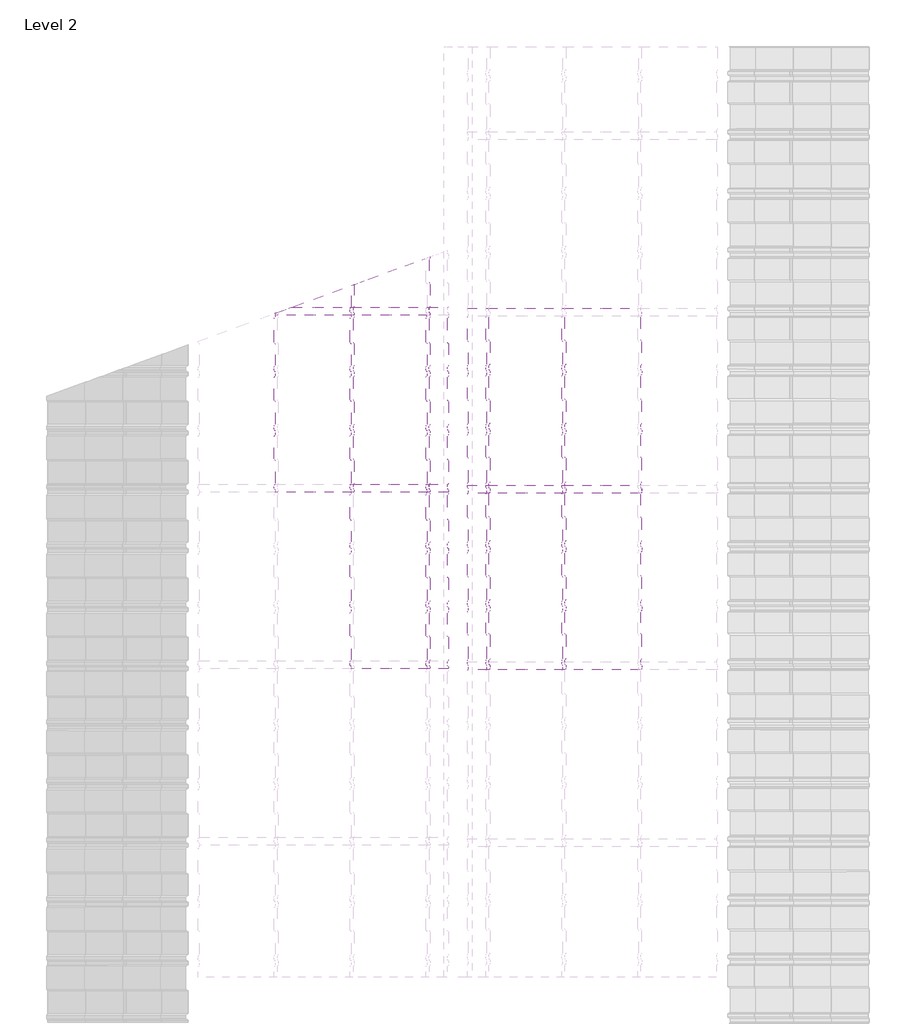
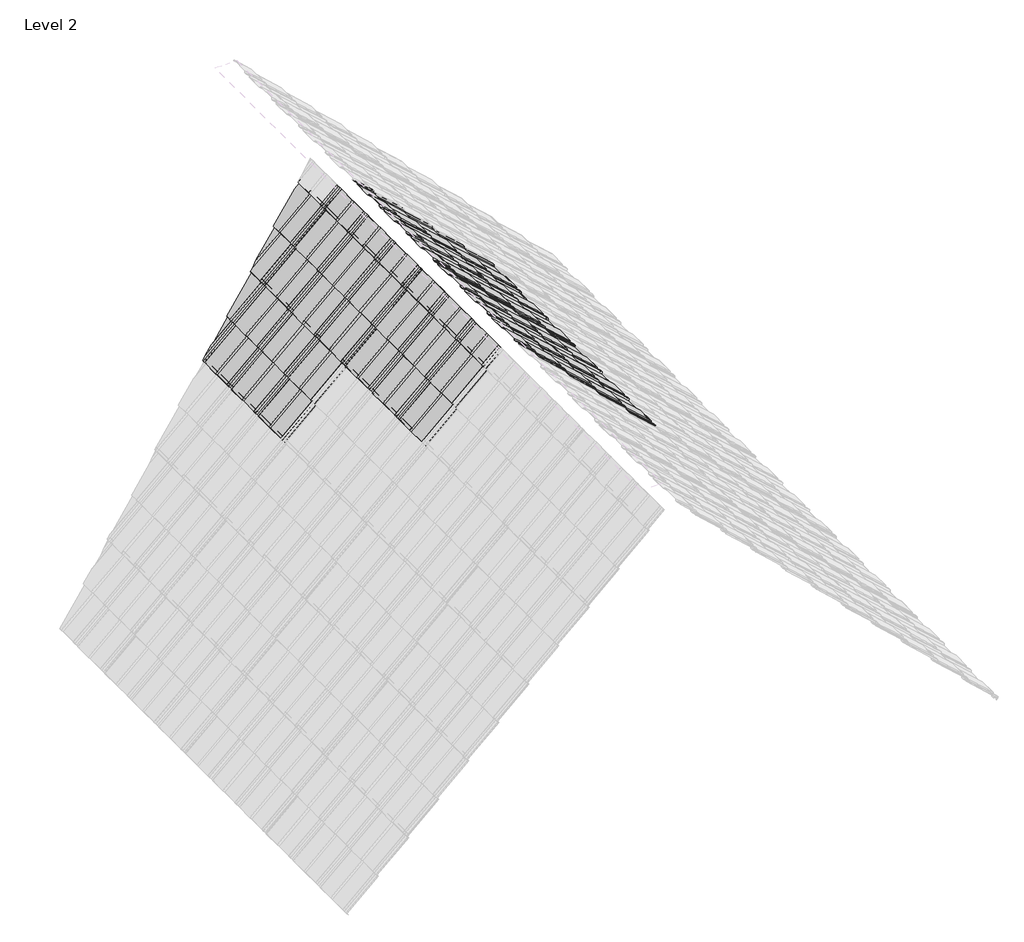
# One storey, part 3 of 4: 13 proxies.
"""IFC4 building model written with IfcOpenShell, lengths in millimetres."""

from ifc_helpers import new_model, si_unit, origin, place, context, project, spatial, faceted_brep, transform, mapped, element, save
from components import specialty_equipment_83d03673, specialty_equipment_ec8eb796

model = new_model("IFC4")

# Units and contexts
model_context = context("Model", 3, world=origin())
ifc_project = project(units=[si_unit("LENGTHUNIT", "METRE", prefix="MILLI")], contexts=[model_context])

# Site, building, storey
site = spatial("IfcSite", under=ifc_project)
building = spatial("IfcBuilding", under=site)
storey = spatial("IfcBuildingStorey", under=building, Name="Level 2", Elevation=4000.0)

# Proxies
placement = place(None, origin())
element("IfcBuildingElementProxy", 1, Name="AQUAPLAST - Blachodachówka Alice : Blachodachówka Alice", ObjectType="AQUAPLAST - Blachodachówka Alice : Blachodachówka Alice", at=placement, inside=storey, context=model_context, shape_type="Brep", body=[
    faceted_brep([(-6474.1422197, 14429.1793097, 5784.3706175), (-6474.1422197, 14407.3864165, 5784.3706175), (-6481.5240321, 14396.3864165, 5792.525913), (-6481.5240321, 14242.2831021, 5792.525913), (-6473.8066828, 14230.7831021, 5783.9999223), (-6473.8066828, 14092.6987959, 5783.9999223), (-6481.8595691, 14080.6987959, 5792.8966083), (-6481.8595691, 14058.8864165, 5792.8966083), (-6473.8066828, 14046.8864165, 5783.9999223), (-6473.8066828, 14024.8864165, 5783.9999223), (-6481.5240321, 14013.3864165, 5792.525913), (-6481.5240321, 13866.6688392, 5792.525913), (-6473.8066828, 13855.1688392, 5783.9999223), (-6473.8066828, 13709.2531454, 5783.9999223), (-6481.8595691, 13697.2531454, 5792.8966083), (-6481.8595691, 13675.440766, 5792.8966083), (-6473.8066828, 13663.440766, 5783.9999223), (-6473.8066828, 13641.440766, 5783.9999223), (-6481.5240321, 13629.940766, 5792.525913), (-6481.5240321, 13483.2231888, 5792.525913), (-6473.8066828, 13471.7231888, 5783.9999223), (-6473.8066828, 13325.1039938, 5783.9999223), (-6481.5240321, 13313.6039938, 5792.525913), (-6481.5240321, 13291.8864165, 5792.525913), (-6473.8066828, 13280.3864165, 5783.9999223), (-6473.8066828, 13267.7302878, 5783.9999223), (-6462.5997493, 13267.7302878, 5771.6187009), (-6462.5997493, 13280.3864165, 5771.6187009), (-6470.3170987, 13291.8864165, 5780.1446916), (-6470.3170987, 13313.6039938, 5780.1446916), (-6462.5997493, 13325.1039938, 5771.6187009), (-6462.5997493, 13471.7231888, 5771.6187009), (-6470.3170987, 13483.2231888, 5780.1446916), (-6470.3170987, 13629.940766, 5780.1446916), (-6462.5997493, 13641.440766, 5771.6187009), (-6462.5997493, 13663.440766, 5771.6187009), (-6470.6526356, 13675.440766, 5780.5153869), (-6470.6526356, 13697.2531454, 5780.5153869), (-6462.5997493, 13709.2531454, 5771.6187009), (-6462.5997493, 13855.1688392, 5771.6187009), (-6470.3170987, 13866.6688392, 5780.1446916), (-6470.3170987, 14013.3864165, 5780.1446916), (-6462.5997493, 14024.8864165, 5771.6187009), (-6462.5997493, 14046.8864165, 5771.6187009), (-6470.6526356, 14058.8864165, 5780.5153869), (-6470.6526356, 14080.6987959, 5780.5153869), (-6462.5997493, 14092.6987959, 5771.6187009), (-6462.5997493, 14230.7831021, 5771.6187009), (-6470.3170987, 14242.2831021, 5780.1446916), (-6470.3170987, 14396.3864165, 5780.1446916), (-6462.9352862, 14407.3864165, 5771.9893961), (-6462.9352862, 14429.1793097, 5771.9893961), (-6466.8399866, 14434.9978948, 5776.3032399), (-6475.8469589, 14431.719625, 5786.2539831), (-5987.4371634, 14463.0182073, 6286.7914608), (-5983.6039355, 14468.7302878, 6282.5565786), (-5972.615101, 14468.7302878, 6270.4163092), (-5976.4483289, 14463.0182073, 6274.6511913), (-5976.4483289, 14440.4722029, 6274.6511913), (-5968.7309795, 14428.9722029, 6266.1252006), (-5968.7309795, 14407.5935233, 6266.1252006), (-5976.112792, 14396.5935233, 6274.2804961), (-5976.112792, 14242.0759953, 6274.2804961), (-5968.3954426, 14230.5759953, 6265.7545053), (-5968.3954426, 14092.9059027, 6265.7545053), (-5976.4483289, 14080.9059027, 6274.6511913), (-5976.4483289, 14058.6793097, 6274.6511913), (-5968.3954426, 14046.6793097, 6265.7545053), (-5968.3954426, 14025.0935233, 6265.7545053), (-5976.112792, 14013.5935233, 6274.2804961), (-5976.112792, 13866.4617325, 6274.2804961), (-5968.3954426, 13854.9617325, 6265.7545053), (-5968.3954426, 13709.4602522, 6265.7545053), (-5976.4483289, 13697.4602522, 6274.6511913), (-5976.4483289, 13675.2336592, 6274.6511913), (-5968.3954426, 13663.2336592, 6265.7545053), (-5968.3954426, 13641.6478728, 6265.7545053), (-5976.112792, 13630.1478728, 6274.2804961), (-5976.112792, 13483.016082, 6274.2804961), (-5968.3954426, 13471.516082, 6265.7545053), (-5968.3954426, 13325.3111006, 6265.7545053), (-5976.112792, 13313.8111006, 6274.2804961), (-5976.112792, 13291.6793097, 6274.2804961), (-5968.3954426, 13280.1793097, 6265.7545053), (-5968.3954426, 13267.7302878, 6265.7545053), (-5979.384277, 13267.7302878, 6277.8947748), (-5979.384277, 13280.1793097, 6277.8947748), (-5987.1016264, 13291.6793097, 6286.4207655), (-5987.1016264, 13313.8111006, 6286.4207655), (-5979.384277, 13325.3111006, 6277.8947748), (-5979.384277, 13471.516082, 6277.8947748), (-5987.1016264, 13483.016082, 6286.4207655), (-5987.1016264, 13630.1478728, 6286.4207655), (-5979.384277, 13641.6478728, 6277.8947748), (-5979.384277, 13663.2336592, 6277.8947748), (-5987.4371634, 13675.2336592, 6286.7914608), (-5987.4371634, 13697.4602522, 6286.7914608), (-5979.384277, 13709.4602522, 6277.8947748), (-5979.384277, 13854.9617325, 6277.8947748), (-5987.1016264, 13866.4617325, 6286.4207655), (-5987.1016264, 14013.5935233, 6286.4207655), (-5979.384277, 14025.0935233, 6277.8947748), (-5979.384277, 14046.6793097, 6277.8947748), (-5987.4371634, 14058.6793097, 6286.7914608), (-5987.4371634, 14080.9059027, 6286.7914608), (-5979.384277, 14092.9059027, 6277.8947748), (-5979.384277, 14230.5759953, 6277.8947748), (-5987.1016264, 14242.0759953, 6286.4207655), (-5987.1016264, 14396.5935233, 6286.4207655), (-5979.719814, 14407.5935233, 6278.26547), (-5979.719814, 14428.9722029, 6278.26547), (-5987.4371634, 14440.4722029, 6286.7914608), (-5963.8150765, 14407.3864165, 6291.9873258), (-5963.8150765, 14429.1793097, 6291.9873258), (-5971.5324259, 14440.6793097, 6300.5133166), (-5971.5324259, 14462.8111006, 6300.5133166), (-5967.5602141, 14468.7302878, 6296.1248874), (-5968.034735, 14468.7302878, 6296.6491297), (-5971.8679628, 14463.0182073, 6300.8840118), (-5971.8679628, 14440.4722029, 6300.8840118), (-5964.1506134, 14428.9722029, 6292.3580211), (-5964.1506134, 14407.5935233, 6292.3580211), (-5971.5324259, 14396.5935233, 6300.5133166), (-5971.5324259, 14242.0759953, 6300.5133166), (-5963.8150765, 14230.5759953, 6291.9873258), (-5963.8150765, 14092.9059027, 6291.9873258), (-5971.8679628, 14080.9059027, 6300.8840118), (-5971.8679628, 14058.6793097, 6300.8840118), (-5963.8150765, 14046.6793097, 6291.9873258), (-5963.8150765, 14025.0935233, 6291.9873258), (-5971.5324259, 14013.5935233, 6300.5133166), (-5971.5324259, 13866.4617325, 6300.5133166), (-5963.8150765, 13854.9617325, 6291.9873258), (-5963.8150765, 13709.4602522, 6291.9873258), (-5971.8679628, 13697.4602522, 6300.8840118), (-5971.8679628, 13675.2336592, 6300.8840118), (-5963.8150765, 13663.2336592, 6291.9873258), (-5963.8150765, 13641.6478728, 6291.9873258), (-5971.5324259, 13630.1478728, 6300.5133166), (-5971.5324259, 13483.016082, 6300.5133166), (-5963.8150765, 13471.516082, 6291.9873258), (-5963.8150765, 13325.3111006, 6291.9873258), (-5971.5324259, 13313.8111006, 6300.5133166), (-5971.5324259, 13291.6793097, 6300.5133166), (-5963.8150765, 13280.1793097, 6291.9873258), (-5963.8150765, 13267.7302878, 6291.9873258), (-5963.4795396, 13267.7302878, 6291.6166306), (-5963.4795396, 13280.3864165, 6291.6166306), (-5971.196889, 13291.8864165, 6300.1426213), (-5971.196889, 13313.6039938, 6300.1426213), (-5963.4795396, 13325.1039938, 6291.6166306), (-5963.4795396, 13471.7231888, 6291.6166306), (-5971.196889, 13483.2231888, 6300.1426213), (-5971.196889, 13629.940766, 6300.1426213), (-5963.4795396, 13641.440766, 6291.6166306), (-5963.4795396, 13663.440766, 6291.6166306), (-5971.5324259, 13675.440766, 6300.5133166), (-5971.5324259, 13697.2531454, 6300.5133166), (-5963.4795396, 13709.2531454, 6291.6166306), (-5963.4795396, 13855.1688392, 6291.6166306), (-5971.196889, 13866.6688392, 6300.1426213), (-5971.196889, 14013.3864165, 6300.1426213), (-5963.4795396, 14024.8864165, 6291.6166306), (-5963.4795396, 14046.8864165, 6291.6166306), (-5971.5324259, 14058.8864165, 6300.5133166), (-5971.5324259, 14080.6987959, 6300.5133166), (-5963.4795396, 14092.6987959, 6291.6166306), (-5963.4795396, 14230.7831021, 6291.6166306), (-5971.196889, 14242.2831021, 6300.1426213), (-5971.196889, 14396.3864165, 6300.1426213), (-5971.3991897, 14468.7302878, 6270.5631408), (-5982.3880241, 14468.7302878, 6282.7034102), (-5986.3602359, 14462.8111006, 6287.0918394), (-5986.3602359, 14440.6793097, 6287.0918394), (-5978.6428865, 14429.1793097, 6278.5658486), (-5978.6428865, 14407.3864165, 6278.5658486), (-5986.024699, 14396.3864165, 6286.7211441), (-5986.024699, 14242.2831021, 6286.7211441), (-5978.3073496, 14230.7831021, 6278.1951534), (-5978.3073496, 14092.6987959, 6278.1951534), (-5986.3602359, 14080.6987959, 6287.0918394), (-5986.3602359, 14058.8864165, 6287.0918394), (-5978.3073496, 14046.8864165, 6278.1951534), (-5978.3073496, 14024.8864165, 6278.1951534), (-5986.024699, 14013.3864165, 6286.7211441), (-5986.024699, 13866.6688392, 6286.7211441), (-5978.3073496, 13855.1688392, 6278.1951534), (-5978.3073496, 13709.2531454, 6278.1951534), (-5986.3602359, 13697.2531454, 6287.0918394), (-5986.3602359, 13675.440766, 6287.0918394), (-5978.3073496, 13663.440766, 6278.1951534), (-5978.3073496, 13641.440766, 6278.1951534), (-5986.024699, 13629.940766, 6286.7211441), (-5986.024699, 13483.2231888, 6286.7211441), (-5978.3073496, 13471.7231888, 6278.1951534), (-5978.3073496, 13325.1039938, 6278.1951534), (-5986.024699, 13313.6039938, 6286.7211441), (-5986.024699, 13291.8864165, 6286.7211441), (-5978.3073496, 13280.3864165, 6278.1951534), (-5978.3073496, 13267.7302878, 6278.1951534), (-5967.3185152, 13267.7302878, 6266.0548839), (-5967.3185152, 13280.3864165, 6266.0548839), (-5975.0358645, 13291.8864165, 6274.5808747), (-5975.0358645, 13313.6039938, 6274.5808747), (-5967.3185152, 13325.1039938, 6266.0548839), (-5967.3185152, 13471.7231888, 6266.0548839), (-5975.0358645, 13483.2231888, 6274.5808747), (-5975.0358645, 13629.940766, 6274.5808747), (-5967.3185152, 13641.440766, 6266.0548839), (-5967.3185152, 13663.440766, 6266.0548839), (-5975.3714015, 13675.440766, 6274.9515699), (-5975.3714015, 13697.2531454, 6274.9515699), (-5967.3185152, 13709.2531454, 6266.0548839), (-5967.3185152, 13855.1688392, 6266.0548839), (-5975.0358645, 13866.6688392, 6274.5808747), (-5975.0358645, 14013.3864165, 6274.5808747), (-5967.3185152, 14024.8864165, 6266.0548839), (-5967.3185152, 14046.8864165, 6266.0548839), (-5975.3714015, 14058.8864165, 6274.9515699), (-5975.3714015, 14080.6987959, 6274.9515699), (-5967.3185152, 14092.6987959, 6266.0548839), (-5967.3185152, 14230.7831021, 6266.0548839), (-5975.0358645, 14242.2831021, 6274.5808747), (-5975.0358645, 14396.3864165, 6274.5808747), (-5967.6540521, 14407.3864165, 6266.4255792), (-5967.6540521, 14429.1793097, 6266.4255792), (-5975.3714015, 14440.6793097, 6274.9515699), (-5975.3714015, 14462.8111006, 6274.9515699), (-6235.9350042, 14463.0182073, 6039.7753404), (-6232.1017764, 14468.7302878, 6035.5404583), (-6220.3579838, 14468.7302878, 6022.5661245), (-6224.1912117, 14463.0182073, 6026.8010067), (-6224.1912117, 14440.4722029, 6026.8010067), (-6216.4738623, 14428.9722029, 6018.2750159), (-6216.4738623, 14407.5935233, 6018.2750159), (-6223.8556748, 14396.5935233, 6026.4303114), (-6223.8556748, 14242.0759953, 6026.4303114), (-6216.1383254, 14230.5759953, 6017.9043207), (-6216.1383254, 14092.9059027, 6017.9043207), (-6224.1912117, 14080.9059027, 6026.8010067), (-6224.1912117, 14058.6793097, 6026.8010067), (-6216.1383254, 14046.6793097, 6017.9043207), (-6216.1383254, 14025.0935233, 6017.9043207), (-6223.8556748, 14013.5935233, 6026.4303114), (-6223.8556748, 13866.4617325, 6026.4303114), (-6216.1383254, 13854.9617325, 6017.9043207), (-6216.1383254, 13709.4602522, 6017.9043207), (-6224.1912117, 13697.4602522, 6026.8010067), (-6224.1912117, 13675.2336592, 6026.8010067), (-6216.1383254, 13663.2336592, 6017.9043207), (-6216.1383254, 13641.6478728, 6017.9043207), (-6223.8556748, 13630.1478728, 6026.4303114), (-6223.8556748, 13483.016082, 6026.4303114), (-6216.1383254, 13471.516082, 6017.9043207), (-6216.1383254, 13325.3111006, 6017.9043207), (-6223.8556748, 13313.8111006, 6026.4303114), (-6223.8556748, 13291.6793097, 6026.4303114), (-6216.1383254, 13280.1793097, 6017.9043207), (-6216.1383254, 13267.7302878, 6017.9043207), (-6227.8821179, 13267.7302878, 6030.8786544), (-6227.8821179, 13280.1793097, 6030.8786544), (-6235.5994673, 13291.6793097, 6039.4046452), (-6235.5994673, 13313.8111006, 6039.4046452), (-6227.8821179, 13325.3111006, 6030.8786544), (-6227.8821179, 13471.516082, 6030.8786544), (-6235.5994673, 13483.016082, 6039.4046452), (-6235.5994673, 13630.1478728, 6039.4046452), (-6227.8821179, 13641.6478728, 6030.8786544), (-6227.8821179, 13663.2336592, 6030.8786544), (-6235.9350042, 13675.2336592, 6039.7753404), (-6235.9350042, 13697.4602522, 6039.7753404), (-6227.8821179, 13709.4602522, 6030.8786544), (-6227.8821179, 13854.9617325, 6030.8786544), (-6235.5994673, 13866.4617325, 6039.4046452), (-6235.5994673, 14013.5935233, 6039.4046452), (-6227.8821179, 14025.0935233, 6030.8786544), (-6227.8821179, 14046.6793097, 6030.8786544), (-6235.9350042, 14058.6793097, 6039.7753404), (-6235.9350042, 14080.9059027, 6039.7753404), (-6227.8821179, 14092.9059027, 6030.8786544), (-6227.8821179, 14230.5759953, 6030.8786544), (-6235.5994673, 14242.0759953, 6039.4046452), (-6235.5994673, 14396.5935233, 6039.4046452), (-6228.2176548, 14407.5935233, 6031.2493497), (-6228.2176548, 14428.9722029, 6031.2493497), (-6235.9350042, 14440.4722029, 6039.7753404), (-6226.8051905, 13267.7302878, 6031.179033), (-6226.8051905, 13280.3864165, 6031.179033), (-6234.5225399, 13291.8864165, 6039.7050238), (-6234.5225399, 13313.6039938, 6039.7050238), (-6226.8051905, 13325.1039938, 6031.179033), (-6226.8051905, 13471.7231888, 6031.179033), (-6234.5225399, 13483.2231888, 6039.7050238), (-6234.5225399, 13629.940766, 6039.7050238), (-6226.8051905, 13641.440766, 6031.179033), (-6226.8051905, 13663.440766, 6031.179033), (-6234.8580768, 13675.440766, 6040.0757191), (-6234.8580768, 13697.2531454, 6040.0757191), (-6226.8051905, 13709.2531454, 6031.179033), (-6226.8051905, 13855.1688392, 6031.179033), (-6234.5225399, 13866.6688392, 6039.7050238), (-6234.5225399, 14013.3864165, 6039.7050238), (-6226.8051905, 14024.8864165, 6031.179033), (-6226.8051905, 14046.8864165, 6031.179033), (-6234.8580768, 14058.8864165, 6040.0757191), (-6234.8580768, 14080.6987959, 6040.0757191), (-6226.8051905, 14092.6987959, 6031.179033), (-6226.8051905, 14230.7831021, 6031.179033), (-6234.5225399, 14242.2831021, 6039.7050238), (-6234.5225399, 14396.3864165, 6039.7050238), (-6227.1407274, 14407.3864165, 6031.5497283), (-6227.1407274, 14429.1793097, 6031.5497283), (-6234.8580768, 14440.6793097, 6040.0757191), (-6234.8580768, 14462.8111006, 6040.0757191), (-6230.885865, 14468.7302878, 6035.6872899), (-6463.6766767, 14429.1793097, 5771.3183223), (-6463.6766767, 14407.3864165, 5771.3183223), (-6471.0584892, 14396.3864165, 5779.4736178), (-6471.0584892, 14242.2831021, 5779.4736178), (-6463.3411398, 14230.7831021, 5770.947627), (-6463.3411398, 14092.6987959, 5770.947627), (-6471.3940261, 14080.6987959, 5779.844313), (-6471.3940261, 14058.8864165, 5779.844313), (-6463.3411398, 14046.8864165, 5770.947627), (-6463.3411398, 14024.8864165, 5770.947627), (-6471.0584892, 14013.3864165, 5779.4736178), (-6471.0584892, 13866.6688392, 5779.4736178), (-6463.3411398, 13855.1688392, 5770.947627), (-6463.3411398, 13709.2531454, 5770.947627), (-6471.3940261, 13697.2531454, 5779.844313), (-6471.3940261, 13675.440766, 5779.844313), (-6463.3411398, 13663.440766, 5770.947627), (-6463.3411398, 13641.440766, 5770.947627), (-6471.0584892, 13629.940766, 5779.4736178), (-6471.0584892, 13483.2231888, 5779.4736178), (-6463.3411398, 13471.7231888, 5770.947627), (-6463.3411398, 13325.1039938, 5770.947627), (-6471.0584892, 13313.6039938, 5779.4736178), (-6471.0584892, 13291.8864165, 5779.4736178), (-6463.3411398, 13280.3864165, 5770.947627), (-6463.3411398, 13267.7302878, 5770.947627), (-6474.8836102, 13267.7302878, 5783.6995436), (-6474.8836102, 13280.1793097, 5783.6995436), (-6482.6009596, 13291.6793097, 5792.2255344), (-6482.6009596, 13313.8111006, 5792.2255344), (-6474.8836102, 13325.3111006, 5783.6995436), (-6474.8836102, 13471.516082, 5783.6995436), (-6482.6009596, 13483.016082, 5792.2255344), (-6482.6009596, 13630.1478728, 5792.2255344), (-6474.8836102, 13641.6478728, 5783.6995436), (-6474.8836102, 13663.2336592, 5783.6995436), (-6482.9364965, 13675.2336592, 5792.5962297), (-6482.9364965, 13697.4602522, 5792.5962297), (-6474.8836102, 13709.4602522, 5783.6995436), (-6474.8836102, 13854.9617325, 5783.6995436), (-6482.6009596, 13866.4617325, 5792.2255344), (-6482.6009596, 14013.5935233, 5792.2255344), (-6474.8836102, 14025.0935233, 5783.6995436), (-6474.8836102, 14046.6793097, 5783.6995436), (-6482.9364965, 14058.6793097, 5792.5962297), (-6482.9364965, 14080.9059027, 5792.5962297), (-6474.8836102, 14092.9059027, 5783.6995436), (-6474.8836102, 14230.5759953, 5783.6995436), (-6482.6009596, 14242.0759953, 5792.2255344), (-6482.6009596, 14396.5935233, 5792.2255344), (-6475.2191471, 14407.5935233, 5784.0702389), (-6475.2191471, 14428.9722029, 5784.0702389), (-6476.8241825, 14431.3639447, 5785.8434535), (-6467.4358395, 14434.7810221, 5775.4713786), (-6215.0613979, 13267.7302878, 6018.2046993), (-6215.0613979, 13280.3864165, 6018.2046993), (-6222.7787473, 13291.8864165, 6026.73069), (-6222.7787473, 13313.6039938, 6026.73069), (-6215.0613979, 13325.1039938, 6018.2046993), (-6215.0613979, 13471.7231888, 6018.2046993), (-6222.7787473, 13483.2231888, 6026.73069), (-6222.7787473, 13629.940766, 6026.73069), (-6215.0613979, 13641.440766, 6018.2046993), (-6215.0613979, 13663.440766, 6018.2046993), (-6223.1142843, 13675.440766, 6027.1013853), (-6223.1142843, 13697.2531454, 6027.1013853), (-6215.0613979, 13709.2531454, 6018.2046993), (-6215.0613979, 13855.1688392, 6018.2046993), (-6222.7787473, 13866.6688392, 6026.73069), (-6222.7787473, 14013.3864165, 6026.73069), (-6215.0613979, 14024.8864165, 6018.2046993), (-6215.0613979, 14046.8864165, 6018.2046993), (-6223.1142843, 14058.8864165, 6027.1013853), (-6223.1142843, 14080.6987959, 6027.1013853), (-6215.0613979, 14092.6987959, 6018.2046993), (-6215.0613979, 14230.7831021, 6018.2046993), (-6222.7787473, 14242.2831021, 6026.73069), (-6222.7787473, 14396.3864165, 6026.73069), (-6215.3969349, 14407.3864165, 6018.5753945), (-6215.3969349, 14429.1793097, 6018.5753945), (-6223.1142843, 14440.6793097, 6027.1013853), (-6223.1142843, 14462.8111006, 6027.1013853), (-6219.1420724, 14468.7302878, 6022.7129561), (-6215.8027884, 13280.3864165, 6017.5336254), (-6223.5201378, 13291.8864165, 6026.0596162), (-6223.5201378, 13313.6039938, 6026.0596162), (-6215.8027884, 13325.1039938, 6017.5336254), (-6215.8027884, 13471.7231888, 6017.5336254), (-6223.5201378, 13483.2231888, 6026.0596162), (-6223.5201378, 13629.940766, 6026.0596162), (-6215.8027884, 13641.440766, 6017.5336254), (-6215.8027884, 13663.440766, 6017.5336254), (-6223.8556748, 13675.440766, 6026.4303114), (-6223.8556748, 13697.2531454, 6026.4303114), (-6215.8027884, 13709.2531454, 6017.5336254), (-6215.8027884, 13855.1688392, 6017.5336254), (-6223.5201378, 13866.6688392, 6026.0596162), (-6223.5201378, 14013.3864165, 6026.0596162), (-6215.8027884, 14024.8864165, 6017.5336254), (-6215.8027884, 14046.8864165, 6017.5336254), (-6223.8556748, 14058.8864165, 6026.4303114), (-6223.8556748, 14080.6987959, 6026.4303114), (-6215.8027884, 14092.6987959, 6017.5336254), (-6215.8027884, 14230.7831021, 6017.5336254), (-6223.5201378, 14242.2831021, 6026.0596162), (-6223.5201378, 14396.3864165, 6026.0596162), (-6216.1383254, 14407.3864165, 6017.9043207), (-6216.1383254, 14429.1793097, 6017.9043207), (-6451.2304275, 14440.6793097, 5820.6207512), (-6223.8556748, 14440.6793097, 6026.4303114), (-6390.423832, 14462.8111006, 5875.6601896), (-6223.8556748, 14462.8111006, 6026.4303114), (-6374.1609987, 14468.7302878, 5882.3966868), (-6374.1609987, 14468.7302878, 5883.3504443), (-6389.8548108, 14463.0182073, 5876.8496508), (-6451.7994487, 14440.4722029, 5820.7801069), (-5986.6957729, 14463.0182073, 6287.4625346), (-5986.6957729, 14440.4722029, 6287.4625346), (-5978.9784235, 14428.9722029, 6278.9365439), (-5978.9784235, 14407.5935233, 6278.9365439), (-5986.3602359, 14396.5935233, 6287.0918394), (-5986.3602359, 14242.0759953, 6287.0918394), (-5978.6428865, 14230.5759953, 6278.5658486), (-5978.6428865, 14092.9059027, 6278.5658486), (-5986.6957729, 14080.9059027, 6287.4625346), (-5986.6957729, 14058.6793097, 6287.4625346), (-5978.6428865, 14046.6793097, 6278.5658486), (-5978.6428865, 14025.0935233, 6278.5658486), (-5986.3602359, 14013.5935233, 6287.0918394), (-5986.3602359, 13866.4617325, 6287.0918394), (-5978.6428865, 13854.9617325, 6278.5658486), (-5978.6428865, 13709.4602522, 6278.5658486), (-5986.6957729, 13697.4602522, 6287.4625346), (-5986.6957729, 13675.2336592, 6287.4625346), (-5978.6428865, 13663.2336592, 6278.5658486), (-5978.6428865, 13641.6478728, 6278.5658486), (-5986.3602359, 13630.1478728, 6287.0918394), (-5986.3602359, 13483.016082, 6287.0918394), (-5978.6428865, 13471.516082, 6278.5658486), (-5978.6428865, 13325.3111006, 6278.5658486), (-5986.3602359, 13313.8111006, 6287.0918394), (-5986.3602359, 13291.6793097, 6287.0918394), (-5978.6428865, 13280.1793097, 6278.5658486)], [[[0, 1, 2, 3, 4, 5, 6, 7, 8, 9, 10, 11, 12, 13, 14, 15, 16, 17, 18, 19, 20, 21, 22, 23, 24, 25, 26, 27, 28, 29, 30, 31, 32, 33, 34, 35, 36, 37, 38, 39, 40, 41, 42, 43, 44, 45, 46, 47, 48, 49, 50, 51, 52, 53]], [[54, 55, 56, 57, 58, 59, 60, 61, 62, 63, 64, 65, 66, 67, 68, 69, 70, 71, 72, 73, 74, 75, 76, 77, 78, 79, 80, 81, 82, 83, 84, 85, 86, 87, 88, 89, 90, 91, 92, 93, 94, 95, 96, 97, 98, 99, 100, 101, 102, 103, 104, 105, 106, 107, 108, 109, 110, 111]], [[112, 113, 114, 115, 116, 117, 118, 119, 120, 121, 122, 123, 124, 125, 126, 127, 128, 129, 130, 131, 132, 133, 134, 135, 136, 137, 138, 139, 140, 141, 142, 143, 144, 145, 146, 147, 148, 149, 150, 151, 152, 153, 154, 155, 156, 157, 158, 159, 160, 161, 162, 163, 164, 165, 166, 167, 168, 169]], [[170, 171, 172, 173, 174, 175, 176, 177, 178, 179, 180, 181, 182, 183, 184, 185, 186, 187, 188, 189, 190, 191, 192, 193, 194, 195, 196, 197, 198, 199, 200, 201, 202, 203, 204, 205, 206, 207, 208, 209, 210, 211, 212, 213, 214, 215, 216, 217, 218, 219, 220, 221, 222, 223, 224, 225, 226, 227]], [[228, 229, 230, 231, 232, 233, 234, 235, 236, 237, 238, 239, 240, 241, 242, 243, 244, 245, 246, 247, 248, 249, 250, 251, 252, 253, 254, 255, 256, 257, 258, 259, 260, 261, 262, 263, 264, 265, 266, 267, 268, 269, 270, 271, 272, 273, 274, 275, 276, 277, 278, 279, 280, 281, 282, 283, 284, 285]], [[60, 59, 284, 283]], [[61, 60, 283, 282]], [[62, 61, 282, 281]], [[63, 62, 281, 280]], [[64, 63, 280, 279]], [[65, 64, 279, 278]], [[66, 65, 278, 277]], [[67, 66, 277, 276]], [[68, 67, 276, 275]], [[69, 68, 275, 274]], [[70, 69, 274, 273]], [[71, 70, 273, 272]], [[72, 71, 272, 271]], [[73, 72, 271, 270]], [[74, 73, 270, 269]], [[75, 74, 269, 268]], [[76, 75, 268, 267]], [[77, 76, 267, 266]], [[78, 77, 266, 265]], [[79, 78, 265, 264]], [[80, 79, 264, 263]], [[81, 80, 263, 262]], [[82, 81, 262, 261]], [[83, 82, 261, 260]], [[84, 83, 260, 259]], [[201, 200, 286, 287]], [[202, 201, 287, 288]], [[203, 202, 288, 289]], [[204, 203, 289, 290]], [[205, 204, 290, 291]], [[206, 205, 291, 292]], [[207, 206, 292, 293]], [[208, 207, 293, 294]], [[209, 208, 294, 295]], [[210, 209, 295, 296]], [[211, 210, 296, 297]], [[212, 211, 297, 298]], [[213, 212, 298, 299]], [[214, 213, 299, 300]], [[215, 214, 300, 301]], [[216, 215, 301, 302]], [[217, 216, 302, 303]], [[218, 217, 303, 304]], [[219, 218, 304, 305]], [[220, 219, 305, 306]], [[221, 220, 306, 307]], [[222, 221, 307, 308]], [[223, 222, 308, 309]], [[224, 223, 309, 310]], [[225, 224, 310, 311]], [[226, 225, 311, 312]], [[227, 226, 312, 313]], [[170, 227, 313, 314]], [[57, 56, 229, 228]], [[58, 57, 228, 285]], [[59, 58, 285, 284]], [[315, 316, 317, 318, 319, 320, 321, 322, 323, 324, 325, 326, 327, 328, 329, 330, 331, 332, 333, 334, 335, 336, 337, 338, 339, 340, 341, 342, 343, 344, 345, 346, 347, 348, 349, 350, 351, 352, 353, 354, 355, 356, 357, 358, 359, 360, 361, 362, 363, 364, 365, 366, 367, 368]], [[287, 286, 369, 370, 371, 372, 373, 374, 375, 376, 377, 378, 379, 380, 381, 382, 383, 384, 385, 386, 387, 388, 389, 390, 391, 392, 393, 394, 395, 396, 397, 314, 313, 312, 311, 310, 309, 308, 307, 306, 305, 304, 303, 302, 301, 300, 299, 298, 297, 296, 295, 294, 293, 292, 291, 290, 289, 288]], [[234, 233, 366, 365]], [[235, 234, 365, 364]], [[236, 235, 364, 363]], [[237, 236, 363, 362]], [[238, 237, 362, 361]], [[239, 238, 361, 360]], [[240, 239, 360, 359]], [[241, 240, 359, 358]], [[242, 241, 358, 357]], [[243, 242, 357, 356]], [[244, 243, 356, 355]], [[245, 244, 355, 354]], [[246, 245, 354, 353]], [[247, 246, 353, 352]], [[248, 247, 352, 351]], [[249, 248, 351, 350]], [[250, 249, 350, 349]], [[251, 250, 349, 348]], [[252, 251, 348, 347]], [[253, 252, 347, 346]], [[254, 253, 346, 345]], [[255, 254, 345, 344]], [[256, 255, 344, 343]], [[257, 256, 343, 342]], [[258, 257, 342, 341]], [[25, 24, 398, 370, 369]], [[24, 23, 399, 371, 370, 398]], [[23, 22, 400, 372, 371, 399]], [[22, 21, 401, 373, 372, 400]], [[21, 20, 402, 374, 373, 401]], [[20, 19, 403, 375, 374, 402]], [[19, 18, 404, 376, 375, 403]], [[18, 17, 405, 377, 376, 404]], [[17, 16, 406, 378, 377, 405]], [[16, 15, 407, 379, 378, 406]], [[15, 14, 408, 380, 379, 407]], [[14, 13, 409, 381, 380, 408]], [[13, 12, 410, 382, 381, 409]], [[12, 11, 411, 383, 382, 410]], [[11, 10, 412, 384, 383, 411]], [[10, 9, 413, 385, 384, 412]], [[9, 8, 414, 386, 385, 413]], [[8, 7, 415, 387, 386, 414]], [[7, 6, 416, 388, 387, 415]], [[6, 5, 417, 389, 388, 416]], [[5, 4, 418, 390, 389, 417]], [[4, 3, 419, 391, 390, 418]], [[3, 2, 420, 392, 391, 419]], [[2, 1, 421, 393, 392, 420]], [[1, 0, 422, 394, 393, 421]], [[395, 394, 422, 0, 53, 423, 424]], [[396, 395, 424, 423, 425, 426]], [[397, 396, 426, 425, 427]], [[231, 230, 428, 429]], [[232, 231, 429, 430]], [[233, 232, 430, 367, 366]], [[27, 26, 340, 339]], [[28, 27, 339, 338]], [[29, 28, 338, 337]], [[30, 29, 337, 336]], [[31, 30, 336, 335]], [[32, 31, 335, 334]], [[33, 32, 334, 333]], [[34, 33, 333, 332]], [[35, 34, 332, 331]], [[36, 35, 331, 330]], [[37, 36, 330, 329]], [[38, 37, 329, 328]], [[39, 38, 328, 327]], [[40, 39, 327, 326]], [[41, 40, 326, 325]], [[42, 41, 325, 324]], [[43, 42, 324, 323]], [[44, 43, 323, 322]], [[45, 44, 322, 321]], [[46, 45, 321, 320]], [[47, 46, 320, 319]], [[48, 47, 319, 318]], [[49, 48, 318, 317]], [[50, 49, 317, 316]], [[51, 50, 316, 315]], [[51, 315, 368, 52]], [[113, 112, 175, 174]], [[114, 113, 174, 173]], [[115, 114, 173, 172]], [[116, 115, 172, 171]], [[55, 54, 431, 118, 117]], [[54, 111, 432, 119, 118, 431]], [[111, 110, 433, 120, 119, 432]], [[110, 109, 434, 121, 120, 433]], [[109, 108, 435, 122, 121, 434]], [[108, 107, 436, 123, 122, 435]], [[107, 106, 437, 124, 123, 436]], [[106, 105, 438, 125, 124, 437]], [[105, 104, 439, 126, 125, 438]], [[104, 103, 440, 127, 126, 439]], [[103, 102, 441, 128, 127, 440]], [[102, 101, 442, 129, 128, 441]], [[101, 100, 443, 130, 129, 442]], [[100, 99, 444, 131, 130, 443]], [[99, 98, 445, 132, 131, 444]], [[98, 97, 446, 133, 132, 445]], [[97, 96, 447, 134, 133, 446]], [[96, 95, 448, 135, 134, 447]], [[95, 94, 449, 136, 135, 448]], [[94, 93, 450, 137, 136, 449]], [[93, 92, 451, 138, 137, 450]], [[92, 91, 452, 139, 138, 451]], [[91, 90, 453, 140, 139, 452]], [[90, 89, 454, 141, 140, 453]], [[89, 88, 455, 142, 141, 454]], [[88, 87, 456, 143, 142, 455]], [[87, 86, 457, 144, 143, 456]], [[86, 85, 145, 144, 457]], [[147, 146, 199, 198]], [[148, 147, 198, 197]], [[149, 148, 197, 196]], [[150, 149, 196, 195]], [[151, 150, 195, 194]], [[152, 151, 194, 193]], [[153, 152, 193, 192]], [[154, 153, 192, 191]], [[155, 154, 191, 190]], [[156, 155, 190, 189]], [[157, 156, 189, 188]], [[158, 157, 188, 187]], [[159, 158, 187, 186]], [[160, 159, 186, 185]], [[161, 160, 185, 184]], [[162, 161, 184, 183]], [[163, 162, 183, 182]], [[164, 163, 182, 181]], [[165, 164, 181, 180]], [[166, 165, 180, 179]], [[167, 166, 179, 178]], [[168, 167, 178, 177]], [[169, 168, 177, 176]], [[112, 169, 176, 175]], [[26, 25, 369, 286, 200, 199, 146, 145, 85, 84, 259, 258, 341, 340]], [[56, 55, 117, 116, 171, 170, 314, 397, 427, 428, 230, 229]], [[53, 52, 368, 367, 430, 429, 428, 427, 425, 423]]]),
])
element("IfcBuildingElementProxy", 2, Name="AQUAPLAST - Blachodachówka Alice : Blachodachówka Alice", ObjectType="AQUAPLAST - Blachodachówka Alice : Blachodachówka Alice", at=placement, inside=storey, context=model_context, shape_type="Brep", body=[
    faceted_brep([(-6473.8066828, 14429.3864165, 5783.9999223), (-6473.8066828, 14416.7302878, 5783.9999223), (-6462.5997493, 14416.7302878, 5771.6187009), (-6462.5997493, 14429.3864165, 5771.6187009), (-6466.4586159, 14435.1367024, 5775.8819082), (-6475.4655882, 14431.8584326, 5785.8326515), (-5968.3954426, 14474.3111006, 6265.7545053), (-5976.112792, 14462.8111006, 6274.2804961), (-5976.112792, 14440.6793097, 6274.2804961), (-5968.3954426, 14429.1793097, 6265.7545053), (-5968.3954426, 14416.7302878, 6265.7545053), (-5979.384277, 14416.7302878, 6277.8947748), (-5979.384277, 14429.1793097, 6277.8947748), (-5987.1016264, 14440.6793097, 6286.4207655), (-5987.1016264, 14462.8111006, 6286.4207655), (-5979.384277, 14474.3111006, 6277.8947748), (-5979.384277, 14612.4172636, 6277.8947748), (-5968.3954426, 14616.4168723, 6265.7545053), (-5963.8150765, 14474.3111006, 6291.9873258), (-5971.5324259, 14462.8111006, 6300.5133166), (-5971.5324259, 14440.6793097, 6300.5133166), (-5963.8150765, 14429.1793097, 6291.9873258), (-5963.8150765, 14416.7302878, 6291.9873258), (-5963.4795396, 14416.7302878, 6291.6166306), (-5963.4795396, 14429.3864165, 6291.6166306), (-5971.196889, 14440.8864165, 6300.1426213), (-5971.196889, 14462.6039938, 6300.1426213), (-5963.4795396, 14474.1039938, 6291.6166306), (-5963.4795396, 14618.2061147, 6291.6166306), (-5963.8150765, 14618.0839892, 6291.9873258), (-5978.3073496, 14474.1039938, 6278.1951534), (-5986.024699, 14462.6039938, 6286.7211441), (-5986.024699, 14440.8864165, 6286.7211441), (-5978.3073496, 14429.3864165, 6278.1951534), (-5978.3073496, 14416.7302878, 6278.1951534), (-5967.3185152, 14416.7302878, 6266.0548839), (-5967.3185152, 14429.3864165, 6266.0548839), (-5975.0358645, 14440.8864165, 6274.5808747), (-5975.0358645, 14462.6039938, 6274.5808747), (-5967.3185152, 14474.1039938, 6266.0548839), (-5967.3185152, 14616.8088418, 6266.0548839), (-5978.3073496, 14612.8092332, 6278.1951534), (-6216.1383254, 14474.3111006, 6017.9043207), (-6223.8556748, 14462.8111006, 6026.4303114), (-6223.8556748, 14440.6793097, 6026.4303114), (-6216.1383254, 14429.1793097, 6017.9043207), (-6216.1383254, 14416.7302878, 6017.9043207), (-6227.8821179, 14416.7302878, 6030.8786544), (-6227.8821179, 14429.1793097, 6030.8786544), (-6235.5994673, 14440.6793097, 6039.4046452), (-6235.5994673, 14462.8111006, 6039.4046452), (-6227.8821179, 14474.3111006, 6030.8786544), (-6227.8821179, 14521.9714463, 6030.8786544), (-6216.1383254, 14526.2458372, 6017.9043207), (-6226.8051905, 14416.7302878, 6031.179033), (-6226.8051905, 14429.3864165, 6031.179033), (-6234.5225399, 14440.8864165, 6039.7050238), (-6234.5225399, 14462.6039938, 6039.7050238), (-6226.8051905, 14474.1039938, 6031.179033), (-6226.8051905, 14522.3634158, 6031.179033), (-6463.3411398, 14429.3864165, 5770.947627), (-6463.3411398, 14416.7302878, 5770.947627), (-6474.8836102, 14416.7302878, 5783.6995436), (-6474.8836102, 14429.1793097, 5783.6995436), (-6476.4428118, 14431.5027523, 5785.4221219), (-6467.0544688, 14434.9198297, 5775.050047), (-6215.0613979, 14416.7302878, 6018.2046993), (-6215.0613979, 14429.3864165, 6018.2046993), (-6222.7787473, 14440.8864165, 6026.73069), (-6222.7787473, 14462.6039938, 6026.73069), (-6215.0613979, 14474.1039938, 6018.2046993), (-6215.0613979, 14526.6378067, 6018.2046993), (-6358.8278416, 14474.3111006, 5888.7480875), (-6390.423832, 14462.8111006, 5875.6601896), (-6451.2304275, 14440.6793097, 5820.6207512), (-6215.8027884, 14429.3864165, 6017.5336254), (-6450.6614063, 14440.8864165, 5820.4613956), (-6223.5201378, 14440.8864165, 6026.0596162), (-6390.9928532, 14462.6039938, 5874.4707284), (-6223.5201378, 14462.6039938, 6026.0596162), (-6359.3968628, 14474.1039938, 5887.5586263), (-6215.8027884, 14474.1039938, 6017.5336254), (-5978.6428865, 14474.3111006, 6278.5658486), (-5986.3602359, 14462.8111006, 6287.0918394), (-5986.3602359, 14440.6793097, 6287.0918394), (-5978.6428865, 14429.1793097, 6278.5658486)], [[[0, 1, 2, 3, 4, 5]], [[6, 7, 8, 9, 10, 11, 12, 13, 14, 15, 16, 17]], [[18, 19, 20, 21, 22, 23, 24, 25, 26, 27, 28, 29]], [[30, 31, 32, 33, 34, 35, 36, 37, 38, 39, 40, 41]], [[42, 43, 44, 45, 46, 47, 48, 49, 50, 51, 52, 53]], [[51, 6, 17, 52]], [[7, 6, 51, 50]], [[8, 7, 50, 49]], [[9, 8, 49, 48]], [[10, 9, 48, 47]], [[36, 35, 54, 55]], [[37, 36, 55, 56]], [[38, 37, 56, 57]], [[39, 38, 57, 58]], [[39, 58, 59, 40]], [[60, 61, 62, 63, 64, 65]], [[55, 54, 66, 67, 68, 69, 70, 71, 59, 58, 57, 56]], [[42, 53, 72]], [[43, 42, 72, 73]], [[44, 43, 73, 74]], [[45, 44, 74, 64, 63]], [[46, 45, 63, 62]], [[1, 0, 75, 67, 66]], [[68, 67, 75, 0, 5, 76, 77]], [[69, 68, 77, 76, 78, 79]], [[70, 69, 79, 78, 80, 81]], [[70, 81, 80, 71]], [[3, 2, 61, 60]], [[3, 60, 65, 4]], [[15, 82, 18, 29, 16]], [[15, 14, 83, 19, 18, 82]], [[14, 13, 84, 20, 19, 83]], [[13, 12, 85, 21, 20, 84]], [[12, 11, 22, 21, 85]], [[24, 23, 34, 33]], [[25, 24, 33, 32]], [[26, 25, 32, 31]], [[27, 26, 31, 30]], [[27, 30, 41, 28]], [[2, 1, 66, 54, 35, 34, 23, 22, 11, 10, 47, 46, 62, 61]], [[5, 4, 65, 64, 74, 73, 72, 53, 52, 17, 16, 29, 28, 41, 40, 59, 71, 80, 78, 76]]]),
])
element("IfcBuildingElementProxy", 3, Name="AQUAPLAST - Blachodachówka Alice : Blachodachówka Alice", ObjectType="AQUAPLAST - Blachodachówka Alice : Blachodachówka Alice", at=placement, inside=storey, context=model_context, shape_type="Brep", body=[
    faceted_brep([(-5979.9633068, 14474.1039938, 6277.8432982), (-5987.6806562, 14462.6039938, 6286.369289), (-5987.6806562, 14440.8864165, 6286.369289), (-5979.9633068, 14429.3864165, 6277.8432982), (-5979.9633068, 14416.7302878, 6277.8432982), (-5968.7563733, 14416.7302878, 6265.4620769), (-5968.7563733, 14429.3864165, 6265.4620769), (-5976.4737227, 14440.8864165, 6273.9880676), (-5976.4737227, 14462.6039938, 6273.9880676), (-5968.7563733, 14474.1039938, 6265.4620769), (-5968.7563733, 14616.2855043, 6265.4620769), (-5979.9633068, 14612.2065141, 6277.8432982), (-5474.5520666, 14790.6478728, 6759.5978813), (-5482.269416, 14779.1478728, 6768.1238721), (-5482.269416, 14632.016082, 6768.1238721), (-5474.5520666, 14620.516082, 6759.5978813), (-5474.5520666, 14474.3111006, 6759.5978813), (-5482.269416, 14462.8111006, 6768.1238721), (-5482.269416, 14440.6793097, 6768.1238721), (-5474.5520666, 14429.1793097, 6759.5978813), (-5474.5520666, 14416.7302878, 6759.5978813), (-5485.5409011, 14416.7302878, 6771.7381507), (-5485.5409011, 14429.1793097, 6771.7381507), (-5493.2582504, 14440.6793097, 6780.2641415), (-5493.2582504, 14462.8111006, 6780.2641415), (-5485.5409011, 14474.3111006, 6771.7381507), (-5485.5409011, 14620.516082, 6771.7381507), (-5493.2582504, 14632.016082, 6780.2641415), (-5493.2582504, 14779.1478728, 6780.2641415), (-5485.5409011, 14790.6478728, 6771.7381507), (-5485.5409011, 14792.1615529, 6771.7381507), (-5474.5520666, 14796.1611615, 6759.5978813), (-5469.9717005, 14790.6478728, 6785.8307018), (-5477.6890499, 14779.1478728, 6794.3566926), (-5477.6890499, 14632.016082, 6794.3566926), (-5469.9717005, 14620.516082, 6785.8307018), (-5469.9717005, 14474.3111006, 6785.8307018), (-5477.6890499, 14462.8111006, 6794.3566926), (-5477.6890499, 14440.6793097, 6794.3566926), (-5469.9717005, 14429.1793097, 6785.8307018), (-5469.9717005, 14416.7302878, 6785.8307018), (-5469.6361636, 14416.7302878, 6785.4600066), (-5469.6361636, 14429.3864165, 6785.4600066), (-5477.353513, 14440.8864165, 6793.9859973), (-5477.353513, 14462.6039938, 6793.9859973), (-5469.6361636, 14474.1039938, 6785.4600066), (-5469.6361636, 14620.7231888, 6785.4600066), (-5477.353513, 14632.2231888, 6793.9859973), (-5477.353513, 14778.940766, 6793.9859973), (-5469.6361636, 14790.440766, 6785.4600066), (-5469.6361636, 14797.9504039, 6785.4600066), (-5469.9717005, 14797.8282785, 6785.8307018), (-5484.4639736, 14790.440766, 6772.0385294), (-5492.181323, 14778.940766, 6780.5645201), (-5492.181323, 14632.2231888, 6780.5645201), (-5484.4639736, 14620.7231888, 6772.0385294), (-5484.4639736, 14474.1039938, 6772.0385294), (-5492.181323, 14462.6039938, 6780.5645201), (-5492.181323, 14440.8864165, 6780.5645201), (-5484.4639736, 14429.3864165, 6772.0385294), (-5484.4639736, 14416.7302878, 6772.0385294), (-5473.4751392, 14416.7302878, 6759.8982599), (-5473.4751392, 14429.3864165, 6759.8982599), (-5481.1924886, 14440.8864165, 6768.4242507), (-5481.1924886, 14462.6039938, 6768.4242507), (-5473.4751392, 14474.1039938, 6759.8982599), (-5473.4751392, 14620.7231888, 6759.8982599), (-5481.1924886, 14632.2231888, 6768.4242507), (-5481.1924886, 14778.940766, 6768.4242507), (-5473.4751392, 14790.440766, 6759.8982599), (-5473.4751392, 14796.5531311, 6759.8982599), (-5484.4639736, 14792.5535224, 6772.0385294), (-5730.0122988, 14632.016082, 6520.2736874), (-5722.2949494, 14620.516082, 6511.7476966), (-5722.2949494, 14474.3111006, 6511.7476966), (-5730.0122988, 14462.8111006, 6520.2736874), (-5730.0122988, 14440.6793097, 6520.2736874), (-5722.2949494, 14429.1793097, 6511.7476966), (-5722.2949494, 14416.7302878, 6511.7476966), (-5734.0387419, 14416.7302878, 6524.7220304), (-5734.0387419, 14429.1793097, 6524.7220304), (-5741.7560913, 14440.6793097, 6533.2480212), (-5741.7560913, 14462.8111006, 6533.2480212), (-5734.0387419, 14474.3111006, 6524.7220304), (-5734.0387419, 14620.516082, 6524.7220304), (-5741.7560913, 14632.016082, 6533.2480212), (-5741.7560913, 14698.9068501, 6533.2480212), (-5730.0122988, 14703.181241, 6520.2736874), (-5489.6997029, 14790.6478728, 6745.8869115), (-5521.2956933, 14779.1478728, 6732.7990136), (-5732.9618145, 14416.7302878, 6525.022409), (-5732.9618145, 14429.3864165, 6525.022409), (-5740.6791639, 14440.8864165, 6533.5483998), (-5740.6791639, 14462.6039938, 6533.5483998), (-5732.9618145, 14474.1039938, 6525.022409), (-5732.9618145, 14620.7231888, 6525.022409), (-5740.6791639, 14632.2231888, 6533.5483998), (-5740.6791639, 14699.2988196, 6533.5483998), (-5521.8647145, 14778.940766, 6731.6095524), (-5490.2687241, 14790.440766, 6744.6974503), (-5969.4977638, 14474.1039938, 6264.791003), (-5977.2151132, 14462.6039938, 6273.3169938), (-5977.2151132, 14440.8864165, 6273.3169938), (-5969.4977638, 14429.3864165, 6264.791003), (-5969.4977638, 14416.7302878, 6264.791003), (-5981.0402342, 14416.7302878, 6277.5429196), (-5981.0402342, 14429.1793097, 6277.5429196), (-5988.7575836, 14440.6793097, 6286.0689104), (-5988.7575836, 14462.8111006, 6286.0689104), (-5981.0402342, 14474.3111006, 6277.5429196), (-5981.0402342, 14611.8145445, 6277.5429196), (-5969.4977638, 14616.0156602, 6264.791003), (-5721.218022, 14416.7302878, 6512.0480753), (-5721.218022, 14429.3864165, 6512.0480753), (-5728.9353713, 14440.8864165, 6520.574066), (-5728.9353713, 14462.6039938, 6520.574066), (-5721.218022, 14474.1039938, 6512.0480753), (-5721.218022, 14620.7231888, 6512.0480753), (-5728.9353713, 14632.2231888, 6520.574066), (-5728.9353713, 14703.5732105, 6520.574066), (-5925.5369662, 14632.016082, 6343.2934144), (-5957.1329566, 14620.516082, 6299.182729), (-5721.9594125, 14429.3864165, 6511.3770014), (-5729.6767618, 14440.8864165, 6519.9029922), (-5729.6767618, 14462.6039938, 6519.9029922), (-5721.9594125, 14474.1039938, 6511.3770014), (-5956.5639354, 14620.7231888, 6299.0233733), (-5721.9594125, 14620.7231888, 6511.3770014), (-5924.967945, 14632.2231888, 6343.1340588), (-5729.6767618, 14632.2231888, 6519.9029922), (-5484.7995106, 14790.6478728, 6772.4092246), (-5492.5168599, 14779.1478728, 6780.9352154), (-5492.5168599, 14632.016082, 6780.9352154), (-5484.7995106, 14620.516082, 6772.4092246), (-5484.7995106, 14474.3111006, 6772.4092246), (-5492.5168599, 14462.8111006, 6780.9352154), (-5492.5168599, 14440.6793097, 6780.9352154), (-5484.7995106, 14429.1793097, 6772.4092246)], [[[0, 1, 2, 3, 4, 5, 6, 7, 8, 9, 10, 11]], [[12, 13, 14, 15, 16, 17, 18, 19, 20, 21, 22, 23, 24, 25, 26, 27, 28, 29, 30, 31]], [[32, 33, 34, 35, 36, 37, 38, 39, 40, 41, 42, 43, 44, 45, 46, 47, 48, 49, 50, 51]], [[52, 53, 54, 55, 56, 57, 58, 59, 60, 61, 62, 63, 64, 65, 66, 67, 68, 69, 70, 71]], [[72, 73, 74, 75, 76, 77, 78, 79, 80, 81, 82, 83, 84, 85, 86, 87]], [[12, 31, 88]], [[13, 12, 88, 89]], [[14, 13, 89, 86, 85]], [[15, 14, 85, 84]], [[16, 15, 84, 83]], [[17, 16, 83, 82]], [[18, 17, 82, 81]], [[19, 18, 81, 80]], [[20, 19, 80, 79]], [[62, 61, 90, 91]], [[63, 62, 91, 92]], [[64, 63, 92, 93]], [[65, 64, 93, 94]], [[66, 65, 94, 95]], [[67, 66, 95, 96]], [[68, 67, 96, 97, 98]], [[69, 68, 98, 99]], [[70, 69, 99]], [[100, 101, 102, 103, 104, 105, 106, 107, 108, 109, 110, 111]], [[91, 90, 112, 113, 114, 115, 116, 117, 118, 119, 97, 96, 95, 94, 93, 92]], [[72, 87, 120]], [[73, 72, 120, 121]], [[74, 73, 121, 110, 109]], [[75, 74, 109, 108]], [[76, 75, 108, 107]], [[77, 76, 107, 106]], [[78, 77, 106, 105]], [[4, 3, 122, 113, 112]], [[3, 2, 123, 114, 113, 122]], [[2, 1, 124, 115, 114, 123]], [[1, 0, 125, 116, 115, 124]], [[117, 116, 125, 0, 11, 126, 127]], [[118, 117, 127, 126, 128, 129]], [[118, 129, 128, 119]], [[6, 5, 104, 103]], [[7, 6, 103, 102]], [[8, 7, 102, 101]], [[9, 8, 101, 100]], [[9, 100, 111, 10]], [[29, 130, 32, 51, 30]], [[29, 28, 131, 33, 32, 130]], [[28, 27, 132, 34, 33, 131]], [[27, 26, 133, 35, 34, 132]], [[26, 25, 134, 36, 35, 133]], [[25, 24, 135, 37, 36, 134]], [[24, 23, 136, 38, 37, 135]], [[23, 22, 137, 39, 38, 136]], [[22, 21, 40, 39, 137]], [[42, 41, 60, 59]], [[43, 42, 59, 58]], [[44, 43, 58, 57]], [[45, 44, 57, 56]], [[46, 45, 56, 55]], [[47, 46, 55, 54]], [[48, 47, 54, 53]], [[49, 48, 53, 52]], [[49, 52, 71, 50]], [[5, 4, 112, 90, 61, 60, 41, 40, 21, 20, 79, 78, 105, 104]], [[11, 10, 111, 110, 121, 120, 87, 86, 89, 88, 31, 30, 51, 50, 71, 70, 99, 98, 97, 119, 128, 126]]]),
])
specialty_equipment_shape = specialty_equipment_83d03673(model_context)
element("IfcBuildingElementProxy", 4, Name="AQUAPLAST - Blachodachówka Alice : Blachodachówka Alice", ObjectType="AQUAPLAST - Blachodachówka Alice : Blachodachówka Alice", at=placement, inside=storey, context=model_context, shape_type="MappedRepresentation", body=[
    mapped(specialty_equipment_shape, transform((-5967.8463031, 12747.9704101, 6265.2067786), x_axis=(0.0, -1.0, 0.0), y_axis=(0.7071067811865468, 0.0, 0.7071067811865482), z_axis=(-0.7071067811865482, 0.0, 0.7071067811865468))),
])
element("IfcBuildingElementProxy", 5, Name="AQUAPLAST - Blachodachówka Alice : Blachodachówka Alice", ObjectType="AQUAPLAST - Blachodachówka Alice : Blachodachówka Alice", at=placement, inside=storey, context=model_context, shape_type="MappedRepresentation", body=[
    mapped(specialty_equipment_shape, transform((-5967.8463031, 13896.9704101, 6265.2067786), x_axis=(0.0, -1.0, 0.0), y_axis=(0.7071067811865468, 0.0, 0.7071067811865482), z_axis=(-0.7071067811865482, 0.0, 0.7071067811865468))),
])
element("IfcBuildingElementProxy", 6, Name="AQUAPLAST - Blachodachówka Alice : Blachodachówka Alice", ObjectType="AQUAPLAST - Blachodachówka Alice : Blachodachówka Alice", at=placement, inside=storey, context=model_context, shape_type="MappedRepresentation", body=[
    mapped(specialty_equipment_shape, transform((-4113.4703051, 12683.4901654, 5772.3970208), x_axis=(0.0, 1.0, 0.0), y_axis=(-0.7071067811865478, 0.0, 0.7071067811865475), z_axis=(0.7071067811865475, 0.0, 0.7071067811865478))),
])
element("IfcBuildingElementProxy", 7, Name="AQUAPLAST - Blachodachówka Alice : Blachodachówka Alice", ObjectType="AQUAPLAST - Blachodachówka Alice : Blachodachówka Alice", at=placement, inside=storey, context=model_context, shape_type="MappedRepresentation", body=[
    mapped(specialty_equipment_shape, transform((-4113.4703051, 13832.4901654, 5772.3970208), x_axis=(0.0, 1.0, 0.0), y_axis=(-0.7071067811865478, 0.0, 0.7071067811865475), z_axis=(0.7071067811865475, 0.0, 0.7071067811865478))),
])
element("IfcBuildingElementProxy", 8, Name="AQUAPLAST - Blachodachówka Alice : Blachodachówka Alice", ObjectType="AQUAPLAST - Blachodachówka Alice : Blachodachówka Alice", at=placement, inside=storey, context=model_context, shape_type="MappedRepresentation", body=[
    mapped(specialty_equipment_shape, transform((-4607.3136811, 12683.4901654, 6266.2403968), x_axis=(0.0, 1.0, 0.0), y_axis=(-0.7071067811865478, 0.0, 0.7071067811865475), z_axis=(0.7071067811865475, 0.0, 0.7071067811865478))),
])
element("IfcBuildingElementProxy", 9, Name="AQUAPLAST - Blachodachówka Alice : Blachodachówka Alice", ObjectType="AQUAPLAST - Blachodachówka Alice : Blachodachówka Alice", at=placement, inside=storey, context=model_context, shape_type="MappedRepresentation", body=[
    mapped(specialty_equipment_shape, transform((-4607.3136811, 13832.4901654, 6266.2403968), x_axis=(0.0, 1.0, 0.0), y_axis=(-0.7071067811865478, 0.0, 0.7071067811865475), z_axis=(0.7071067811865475, 0.0, 0.7071067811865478))),
])
specialty_equipment_2_shape = specialty_equipment_ec8eb796(model_context)
element("IfcBuildingElementProxy", 10, Name="AQUAPLAST - Blachodachówka Alice : Blachodachówka Alice", ObjectType="AQUAPLAST - Blachodachówka Alice : Blachodachówka Alice", at=placement, inside=storey, context=model_context, shape_type="MappedRepresentation", body=[
    mapped(specialty_equipment_2_shape, transform((-5474.0029272, 12747.9704101, 6759.0501546), x_axis=(0.0, -1.0, 0.0), y_axis=(0.7071067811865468, 0.0, 0.7071067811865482), z_axis=(-0.7071067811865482, 0.0, 0.7071067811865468))),
])
element("IfcBuildingElementProxy", 11, Name="AQUAPLAST - Blachodachówka Alice : Blachodachówka Alice", ObjectType="AQUAPLAST - Blachodachówka Alice : Blachodachówka Alice", at=placement, inside=storey, context=model_context, shape_type="MappedRepresentation", body=[
    mapped(specialty_equipment_2_shape, transform((-5474.0029272, 13896.9704101, 6759.0501546), x_axis=(0.0, -1.0, 0.0), y_axis=(0.7071067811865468, 0.0, 0.7071067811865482), z_axis=(-0.7071067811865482, 0.0, 0.7071067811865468))),
])
element("IfcBuildingElementProxy", 12, Name="AQUAPLAST - Blachodachówka Alice : Blachodachówka Alice", ObjectType="AQUAPLAST - Blachodachówka Alice : Blachodachówka Alice", at=placement, inside=storey, context=model_context, shape_type="MappedRepresentation", body=[
    mapped(specialty_equipment_2_shape, transform((-5101.1570571, 12683.4901654, 6760.0837728), x_axis=(0.0, 1.0, 0.0), y_axis=(-0.7071067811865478, 0.0, 0.7071067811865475), z_axis=(0.7071067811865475, 0.0, 0.7071067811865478))),
])
element("IfcBuildingElementProxy", 13, Name="AQUAPLAST - Blachodachówka Alice : Blachodachówka Alice", ObjectType="AQUAPLAST - Blachodachówka Alice : Blachodachówka Alice", at=placement, inside=storey, context=model_context, shape_type="MappedRepresentation", body=[
    mapped(specialty_equipment_2_shape, transform((-5101.1570571, 13832.4901654, 6760.0837728), x_axis=(0.0, 1.0, 0.0), y_axis=(-0.7071067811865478, 0.0, 0.7071067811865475), z_axis=(0.7071067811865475, 0.0, 0.7071067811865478))),
])

save(model, "model.ifc")
